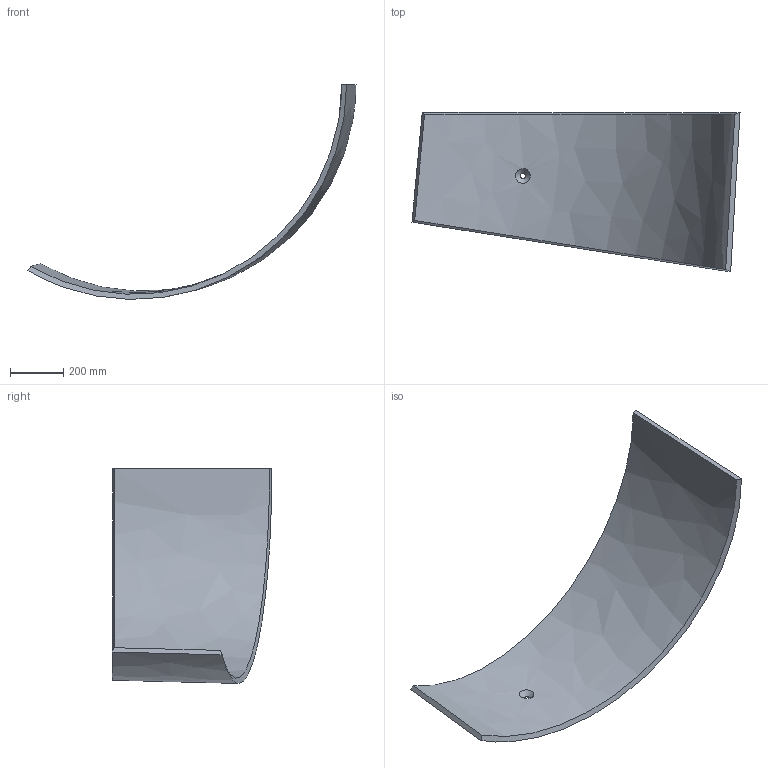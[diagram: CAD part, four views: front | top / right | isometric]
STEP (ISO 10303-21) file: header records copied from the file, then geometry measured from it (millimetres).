
FILE_DESCRIPTION (( 'STEP AP214' ), '1' );
FILE_NAME ('P4.2.STEP', '2025-01-09T19:43:27', ( '' ), ( '' ), 'SwSTEP 2.0', 'SolidWorks 2024', '' );
FILE_SCHEMA (( 'AUTOMOTIVE_DESIGN' ));
Length unit declared in the file: inch
Products named in the file (1): P4.2
Bounding box: 1229.87 x 599.37 x 805.5 mm (x, y, z)
Volume: 16973878.8 mm3; surface area: 1794734.3 mm2
Topology: 1 solids, 1 shells, 8 faces, 18 edges, 12 vertices
Faces by surface type: bspline 7, cylinder 1
Full cylindrical faces by diameter (mm): 19.431 x1
Entity records: 2402 total; most frequent: CARTESIAN_POINT 2254, ORIENTED_EDGE 30, EDGE_CURVE 15, B_SPLINE_CURVE_WITH_KNOTS 15, EDGE_LOOP 12, VERTEX_POINT 11, FACE_OUTER_BOUND 10, ADVANCED_FACE 8
